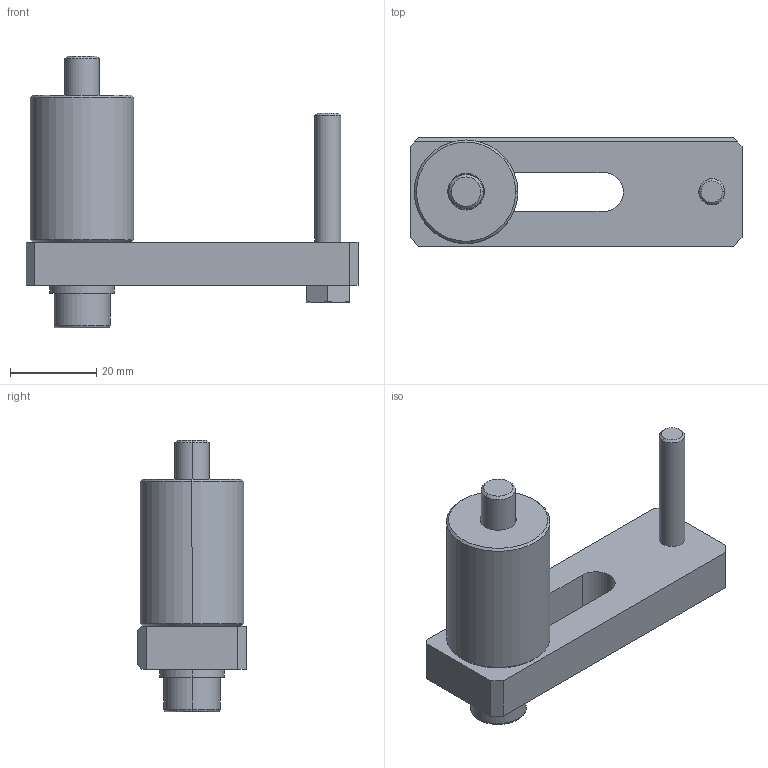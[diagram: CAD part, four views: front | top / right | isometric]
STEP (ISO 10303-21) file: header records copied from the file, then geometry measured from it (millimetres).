
FILE_DESCRIPTION((''),'2;1');
FILE_NAME('FG_VC_BASIC_C0031NP001','2026-02-23T17:16:15',('Admin'),(''),'CREO PARAMETRIC BY PTC INC, 2025010','CREO PARAMETRIC BY PTC INC, 2025010','');
FILE_SCHEMA(('CONFIG_CONTROL_DESIGN'));
Length unit declared in the file: millimetre
Products named in the file (1): FG_VC_BASIC_C0031NP001
Bounding box: 77 x 25.2 x 63 mm (x, y, z)
Volume: 34246.6 mm3; surface area: 12731.5 mm2
Topology: 2 solids, 2 shells, 71 faces, 167 edges, 107 vertices
Faces by surface type: plane 37, cylinder 18, cone 14, torus 2
Entity records: 2162 total; most frequent: CARTESIAN_POINT 449, DIRECTION 358, ORIENTED_EDGE 334, EDGE_CURVE 167, AXIS2_PLACEMENT_3D 132, VERTEX_POINT 107, VECTOR 94, LINE 94
